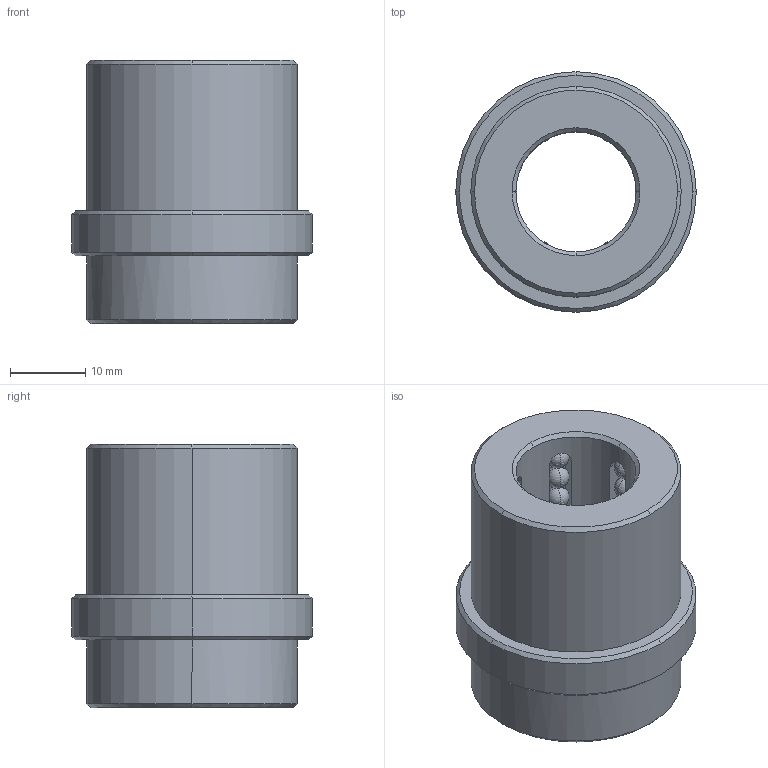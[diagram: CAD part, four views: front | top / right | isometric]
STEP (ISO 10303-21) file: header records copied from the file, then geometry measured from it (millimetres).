
FILE_DESCRIPTION(('CATIA V5 STEP Exchange'),'2;1');
FILE_NAME('C:\Users\Raffaele\Desktop\3D BOLEX\3D FILES CF BOLEX\2-BUSH REF 802\B8021626.stp','2019-06-19T13:58:30+00:00',('none'),('none'),'CATIA Version 5 Release 20 GA (IN-10)','CATIA V5 STEP AP203','none');
FILE_SCHEMA(('CONFIG_CONTROL_DESIGN'));
Length unit declared in the file: millimetre
Products named in the file (1): B8021626
Bounding box: 32 x 32 x 35 mm (x, y, z)
Volume: 14870.9 mm3; surface area: 8601.8 mm2
Topology: 55 solids, 55 shells, 282 faces, 810 edges, 212 vertices
Faces by surface type: sphere 216, cone 24, plane 22, cylinder 20
Entity records: 5869 total; most frequent: CARTESIAN_POINT 1308, DIRECTION 909, ORIENTED_EDGE 756, AXIS2_PLACEMENT_3D 546, EDGE_CURVE 378, EDGE_LOOP 290, ADVANCED_FACE 282, FACE_OUTER_BOUND 282
